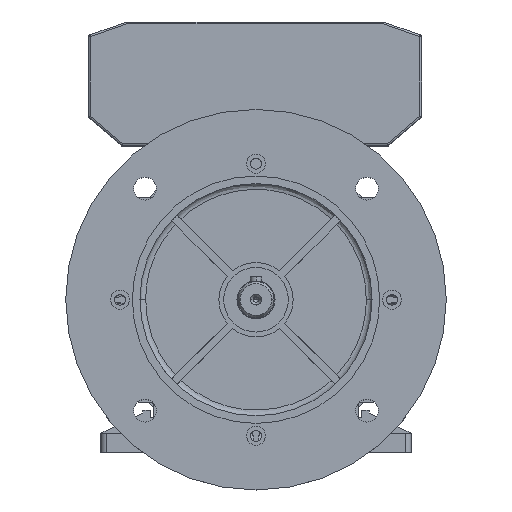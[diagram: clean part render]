
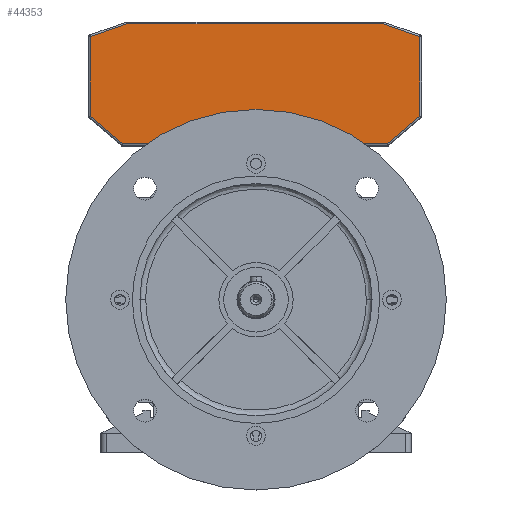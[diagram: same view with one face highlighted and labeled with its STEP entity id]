
A CAD part, top view. The second image highlights one B-rep face of the part: STEP entity #44353.
In plain terms, the highlighted planar face has unit normal (0, 0, 1).
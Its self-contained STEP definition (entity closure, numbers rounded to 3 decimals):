
#17094 = VERTEX_POINT ( 'NONE', #42930 ) ;
#17095 = VERTEX_POINT ( 'NONE', #42931 ) ;
#17100 = VERTEX_POINT ( 'NONE', #42936 ) ;
#17101 = VERTEX_POINT ( 'NONE', #42937 ) ;
#17102 = VERTEX_POINT ( 'NONE', #42938 ) ;
#17103 = VERTEX_POINT ( 'NONE', #42939 ) ;
#17104 = VERTEX_POINT ( 'NONE', #42940 ) ;
#17105 = VERTEX_POINT ( 'NONE', #42941 ) ;
#21335 = LINE ( 'NONE', #23993, #21356 ) ;
#21346 = LINE ( 'NONE', #24008, #21352 ) ;
#21352 = VECTOR ( 'NONE', #24010, 1000. ) ;
#21354 = LINE ( 'NONE', #24012, #21360 ) ;
#21356 = VECTOR ( 'NONE', #24011, 1000. ) ;
#21358 = LINE ( 'NONE', #24014, #21363 ) ;
#21360 = VECTOR ( 'NONE', #24013, 1000. ) ;
#21361 = LINE ( 'NONE', #24016, #21367 ) ;
#21363 = VECTOR ( 'NONE', #24015, 1000. ) ;
#21365 = LINE ( 'NONE', #24018, #21371 ) ;
#21367 = VECTOR ( 'NONE', #24017, 1000. ) ;
#21369 = LINE ( 'NONE', #24020, #21375 ) ;
#21371 = VECTOR ( 'NONE', #24019, 1000. ) ;
#21373 = LINE ( 'NONE', #24022, #21378 ) ;
#21375 = VECTOR ( 'NONE', #24021, 1000. ) ;
#21378 = VECTOR ( 'NONE', #24023, 1000. ) ;
#23993 = CARTESIAN_POINT ( 'NONE',  ( 70., 1., 75. ) ) ;
#24008 = CARTESIAN_POINT ( 'NONE',  ( -69.349, 0.759, 75. ) ) ;
#24010 = DIRECTION ( 'NONE',  ( 0.759, -0.651, 0. ) ) ;
#24011 = DIRECTION ( 'NONE',  ( 1., 0., 0. ) ) ;
#24012 = CARTESIAN_POINT ( 'NONE',  ( 86.849, 15.759, 75. ) ) ;
#24013 = DIRECTION ( 'NONE',  ( 0.759, 0.651, 0. ) ) ;
#24014 = CARTESIAN_POINT ( 'NONE',  ( 86.5, 58., 75. ) ) ;
#24015 = DIRECTION ( 'NONE',  ( 0., 1., 0. ) ) ;
#24016 = CARTESIAN_POINT ( 'NONE',  ( 67.17, 64.056, 75. ) ) ;
#24017 = DIRECTION ( 'NONE',  ( -0.944, 0.33, 0. ) ) ;
#24018 = CARTESIAN_POINT ( 'NONE',  ( -67.5, 64., 75. ) ) ;
#24019 = DIRECTION ( 'NONE',  ( -1., 0., 0. ) ) ;
#24020 = CARTESIAN_POINT ( 'NONE',  ( -87.17, 57.056, 75. ) ) ;
#24021 = DIRECTION ( 'NONE',  ( -0.944, -0.33, 0. ) ) ;
#24022 = CARTESIAN_POINT ( 'NONE',  ( -86.5, 15., 75. ) ) ;
#24023 = DIRECTION ( 'NONE',  ( 0., -1., 0. ) ) ;
#42930 = CARTESIAN_POINT ( 'NONE',  ( -86.5, 15.46, 75. ) ) ;
#42931 = CARTESIAN_POINT ( 'NONE',  ( -69.63, 1., 75. ) ) ;
#42936 = CARTESIAN_POINT ( 'NONE',  ( 69.63, 1., 75. ) ) ;
#42937 = CARTESIAN_POINT ( 'NONE',  ( 86.5, 15.46, 75. ) ) ;
#42938 = CARTESIAN_POINT ( 'NONE',  ( 86.5, 57.291, 75. ) ) ;
#42939 = CARTESIAN_POINT ( 'NONE',  ( 67.33, 64., 75. ) ) ;
#42940 = CARTESIAN_POINT ( 'NONE',  ( -67.33, 64., 75. ) ) ;
#42941 = CARTESIAN_POINT ( 'NONE',  ( -86.5, 57.291, 75. ) ) ;
#44353 = ADVANCED_FACE ( 'NONE', ( #53999 ), #57201, .T. ) ;
#45634 = EDGE_LOOP ( 'NONE', ( #54843, #54844, #54846, #54847, #54848, #54850, #54851, #54853 ) ) ;
#50945 = EDGE_CURVE ( 'NONE', #17094, #17095, #21346, .T. ) ;
#50946 = EDGE_CURVE ( 'NONE', #17095, #17100, #21335, .T. ) ;
#50947 = EDGE_CURVE ( 'NONE', #17100, #17101, #21354, .T. ) ;
#50948 = EDGE_CURVE ( 'NONE', #17101, #17102, #21358, .T. ) ;
#50949 = EDGE_CURVE ( 'NONE', #17102, #17103, #21361, .T. ) ;
#50950 = EDGE_CURVE ( 'NONE', #17103, #17104, #21365, .T. ) ;
#50951 = EDGE_CURVE ( 'NONE', #17104, #17105, #21369, .T. ) ;
#50952 = EDGE_CURVE ( 'NONE', #17105, #17094, #21373, .T. ) ;
#53999 = FACE_OUTER_BOUND ( 'NONE', #45634, .T. ) ;
#54843 = ORIENTED_EDGE ( 'NONE', *, *, #50945, .T. ) ;
#54844 = ORIENTED_EDGE ( 'NONE', *, *, #50946, .T. ) ;
#54846 = ORIENTED_EDGE ( 'NONE', *, *, #50947, .T. ) ;
#54847 = ORIENTED_EDGE ( 'NONE', *, *, #50948, .T. ) ;
#54848 = ORIENTED_EDGE ( 'NONE', *, *, #50949, .T. ) ;
#54850 = ORIENTED_EDGE ( 'NONE', *, *, #50950, .T. ) ;
#54851 = ORIENTED_EDGE ( 'NONE', *, *, #50951, .T. ) ;
#54853 = ORIENTED_EDGE ( 'NONE', *, *, #50952, .T. ) ;
#55539 = AXIS2_PLACEMENT_3D ( 'NONE', #57202, #57206, #57207 ) ;
#57201 = PLANE ( 'NONE',  #55539 ) ;
#57202 = CARTESIAN_POINT ( 'NONE',  ( 0., -60., 75. ) ) ;
#57206 = DIRECTION ( 'NONE',  ( 0., 0., 1. ) ) ;
#57207 = DIRECTION ( 'NONE',  ( 1., 0., 0. ) ) ;
